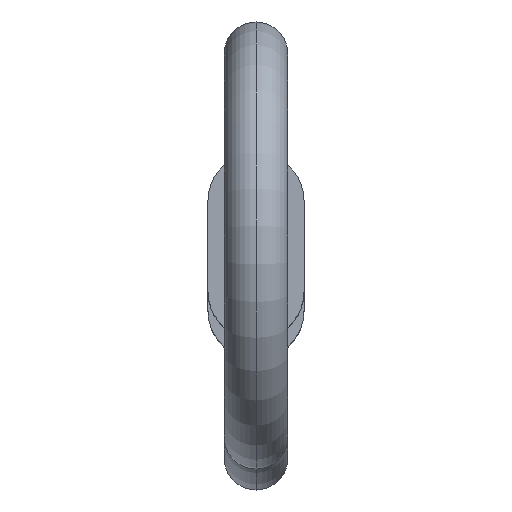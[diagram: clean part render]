
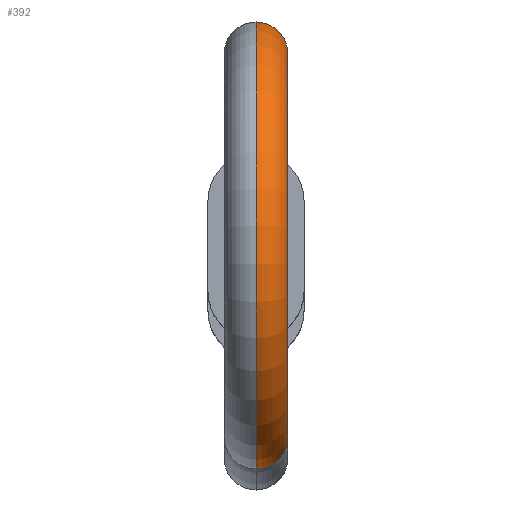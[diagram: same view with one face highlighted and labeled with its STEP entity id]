
A CAD part, top view. The second image highlights one B-rep face of the part: STEP entity #392.
In plain terms, the highlighted toroidal (fillet/blend) face has major radius 4.8 mm and minor radius 0.795 mm.
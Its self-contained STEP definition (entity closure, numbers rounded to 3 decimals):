
#27 = DIRECTION ( 'NONE',  ( 1., 0., 0. ) ) ;
#34 = AXIS2_PLACEMENT_3D ( 'NONE', #534, #754, #93 ) ;
#45 = FACE_OUTER_BOUND ( 'NONE', #586, .T. ) ;
#51 = DIRECTION ( 'NONE',  ( 1., 0., 0. ) ) ;
#67 = AXIS2_PLACEMENT_3D ( 'NONE', #787, #51, #647 ) ;
#93 = DIRECTION ( 'NONE',  ( 1., 0., 0. ) ) ;
#105 = CARTESIAN_POINT ( 'NONE',  ( 0., -4.118, 149.73 ) ) ;
#174 = CARTESIAN_POINT ( 'NONE',  ( 0., 1.852, 149.73 ) ) ;
#179 = EDGE_CURVE ( 'NONE', #541, #431, #712, .T. ) ;
#181 = CARTESIAN_POINT ( 'NONE',  ( 0., -1.133, 152.4 ) ) ;
#246 = AXIS2_PLACEMENT_3D ( 'NONE', #790, #562, #796 ) ;
#247 = EDGE_CURVE ( 'NONE', #595, #324, #481, .T. ) ;
#248 = DIRECTION ( 'NONE',  ( 1., 0., 0. ) ) ;
#301 = ORIENTED_EDGE ( 'NONE', *, *, #651, .T. ) ;
#324 = VERTEX_POINT ( 'NONE', #476 ) ;
#375 = ORIENTED_EDGE ( 'NONE', *, *, #247, .T. ) ;
#392 = ADVANCED_FACE ( 'NONE', ( #45 ), #591, .T. ) ;
#431 = VERTEX_POINT ( 'NONE', #724 ) ;
#476 = CARTESIAN_POINT ( 'NONE',  ( 0., 3.037, 148.67 ) ) ;
#481 = CIRCLE ( 'NONE', #816, 0.795 ) ;
#484 = CIRCLE ( 'NONE', #530, 5.595 ) ;
#509 = ORIENTED_EDGE ( 'NONE', *, *, #179, .F. ) ;
#530 = AXIS2_PLACEMENT_3D ( 'NONE', #181, #27, #917 ) ;
#534 = CARTESIAN_POINT ( 'NONE',  ( 0., -4.711, 149.2 ) ) ;
#541 = VERTEX_POINT ( 'NONE', #105 ) ;
#552 = CARTESIAN_POINT ( 'NONE',  ( 0., 2.445, 149.2 ) ) ;
#562 = DIRECTION ( 'NONE',  ( 1., 0., 0. ) ) ;
#586 = EDGE_LOOP ( 'NONE', ( #375, #301, #509, #609 ) ) ;
#591 = TOROIDAL_SURFACE ( 'NONE', #246, 4.8, 0.795 ) ;
#595 = VERTEX_POINT ( 'NONE', #174 ) ;
#609 = ORIENTED_EDGE ( 'NONE', *, *, #738, .F. ) ;
#615 = DIRECTION ( 'NONE',  ( 0., 0.667, 0.745 ) ) ;
#622 = CIRCLE ( 'NONE', #67, 4.005 ) ;
#647 = DIRECTION ( 'NONE',  ( 0., 0., -1. ) ) ;
#651 = EDGE_CURVE ( 'NONE', #324, #431, #484, .T. ) ;
#712 = CIRCLE ( 'NONE', #34, 0.795 ) ;
#724 = CARTESIAN_POINT ( 'NONE',  ( 0., -5.303, 148.67 ) ) ;
#738 = EDGE_CURVE ( 'NONE', #595, #541, #622, .T. ) ;
#754 = DIRECTION ( 'NONE',  ( 0., 0.667, -0.745 ) ) ;
#787 = CARTESIAN_POINT ( 'NONE',  ( 0., -1.133, 152.4 ) ) ;
#790 = CARTESIAN_POINT ( 'NONE',  ( 0., -1.133, 152.4 ) ) ;
#796 = DIRECTION ( 'NONE',  ( 0., 0., -1. ) ) ;
#816 = AXIS2_PLACEMENT_3D ( 'NONE', #552, #615, #248 ) ;
#917 = DIRECTION ( 'NONE',  ( 0., 0., -1. ) ) ;
